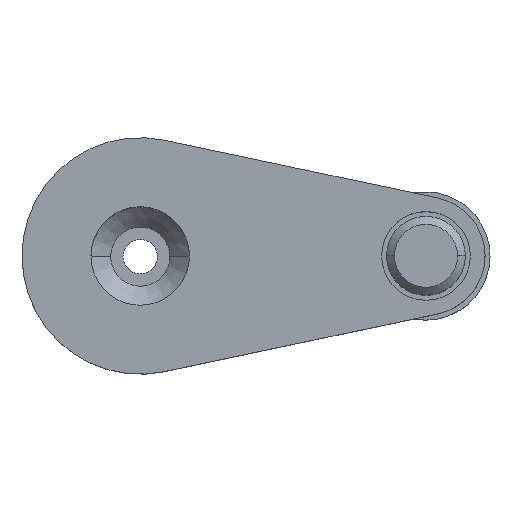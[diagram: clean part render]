
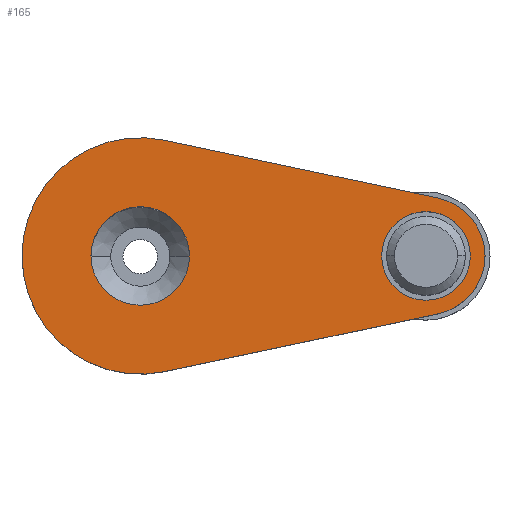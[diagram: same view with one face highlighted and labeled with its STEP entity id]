
A CAD part, top view. The second image highlights one B-rep face of the part: STEP entity #165.
In plain terms, the highlighted planar face has unit normal (0, 0, 1).
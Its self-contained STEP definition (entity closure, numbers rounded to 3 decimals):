
#116=FACE_BOUND('',#280,.T.);
#117=FACE_BOUND('',#281,.T.);
#118=FACE_BOUND('',#282,.T.);
#138=PLANE('',#979);
#165=ADVANCED_FACE('',(#116,#117,#118),#138,.T.);
#280=EDGE_LOOP('',(#499,#500,#501,#502,#503,#504));
#281=EDGE_LOOP('',(#505,#506));
#282=EDGE_LOOP('',(#507,#508));
#335=LINE('',#1363,#395);
#339=LINE('',#1379,#399);
#395=VECTOR('',#1079,1.);
#399=VECTOR('',#1095,1.);
#499=ORIENTED_EDGE('',*,*,#786,.F.);
#500=ORIENTED_EDGE('',*,*,#779,.F.);
#501=ORIENTED_EDGE('',*,*,#773,.F.);
#502=ORIENTED_EDGE('',*,*,#778,.F.);
#503=ORIENTED_EDGE('',*,*,#787,.F.);
#504=ORIENTED_EDGE('',*,*,#782,.F.);
#505=ORIENTED_EDGE('',*,*,#799,.F.);
#506=ORIENTED_EDGE('',*,*,#795,.F.);
#507=ORIENTED_EDGE('',*,*,#793,.F.);
#508=ORIENTED_EDGE('',*,*,#789,.F.);
#693=VERTEX_POINT('',#1351);
#694=VERTEX_POINT('',#1352);
#698=VERTEX_POINT('',#1360);
#699=VERTEX_POINT('',#1364);
#701=VERTEX_POINT('',#1370);
#702=VERTEX_POINT('',#1371);
#705=VERTEX_POINT('',#1383);
#706=VERTEX_POINT('',#1384);
#709=VERTEX_POINT('',#1395);
#710=VERTEX_POINT('',#1396);
#773=EDGE_CURVE('',#693,#694,#893,.T.);
#778=EDGE_CURVE('',#698,#693,#896,.T.);
#779=EDGE_CURVE('',#694,#699,#335,.T.);
#782=EDGE_CURVE('',#701,#702,#897,.T.);
#786=EDGE_CURVE('',#699,#701,#900,.T.);
#787=EDGE_CURVE('',#702,#698,#339,.T.);
#789=EDGE_CURVE('',#705,#706,#901,.T.);
#793=EDGE_CURVE('',#706,#705,#903,.T.);
#795=EDGE_CURVE('',#709,#710,#905,.T.);
#799=EDGE_CURVE('',#710,#709,#907,.T.);
#893=CIRCLE('',#954,6.);
#896=CIRCLE('',#957,6.);
#897=CIRCLE('',#960,12.);
#900=CIRCLE('',#963,12.);
#901=CIRCLE('',#966,4.5);
#903=CIRCLE('',#969,4.5);
#905=CIRCLE('',#972,5.);
#907=CIRCLE('',#975,5.);
#954=AXIS2_PLACEMENT_3D('',#1350,#1067,#1068);
#957=AXIS2_PLACEMENT_3D('',#1361,#1075,#1076);
#960=AXIS2_PLACEMENT_3D('',#1369,#1084,#1085);
#963=AXIS2_PLACEMENT_3D('',#1377,#1091,#1092);
#966=AXIS2_PLACEMENT_3D('',#1382,#1099,#1100);
#969=AXIS2_PLACEMENT_3D('',#1391,#1107,#1108);
#972=AXIS2_PLACEMENT_3D('',#1394,#1113,#1114);
#975=AXIS2_PLACEMENT_3D('',#1403,#1121,#1122);
#979=AXIS2_PLACEMENT_3D('',#1407,#1129,#1130);
#1067=DIRECTION('',(0.,0.,-1.));
#1068=DIRECTION('',(-1.,0.,0.));
#1075=DIRECTION('',(0.,0.,-1.));
#1076=DIRECTION('',(-1.,0.,0.));
#1079=DIRECTION('',(-0.978,-0.207,0.));
#1084=DIRECTION('',(0.,0.,-1.));
#1085=DIRECTION('',(1.,0.,0.));
#1091=DIRECTION('',(0.,0.,-1.));
#1092=DIRECTION('',(1.,0.,0.));
#1095=DIRECTION('',(0.978,-0.207,0.));
#1099=DIRECTION('',(0.,0.,1.));
#1100=DIRECTION('',(1.,0.,0.));
#1107=DIRECTION('',(0.,0.,1.));
#1108=DIRECTION('',(-1.,0.,0.));
#1113=DIRECTION('',(0.,0.,1.));
#1114=DIRECTION('',(1.,0.,0.));
#1121=DIRECTION('',(0.,0.,1.));
#1122=DIRECTION('',(-1.,0.,0.));
#1129=DIRECTION('',(0.,0.,1.));
#1130=DIRECTION('',(-1.,0.,0.));
#1350=CARTESIAN_POINT('',(29.,0.,0.));
#1351=CARTESIAN_POINT('',(35.,0.,0.));
#1352=CARTESIAN_POINT('',(30.241,-5.87,0.));
#1360=CARTESIAN_POINT('',(30.241,5.87,0.));
#1361=CARTESIAN_POINT('',(29.,0.,0.));
#1363=CARTESIAN_POINT('',(2.483,-11.74,0.));
#1364=CARTESIAN_POINT('',(2.483,-11.74,0.));
#1369=CARTESIAN_POINT('',(0.,0.,0.));
#1370=CARTESIAN_POINT('',(-12.,0.,0.));
#1371=CARTESIAN_POINT('',(2.483,11.74,0.));
#1377=CARTESIAN_POINT('',(0.,0.,0.));
#1379=CARTESIAN_POINT('',(2.483,11.74,0.));
#1382=CARTESIAN_POINT('',(29.,0.,0.));
#1383=CARTESIAN_POINT('',(29.,4.5,0.));
#1384=CARTESIAN_POINT('',(29.,-4.5,0.));
#1391=CARTESIAN_POINT('',(29.,0.,0.));
#1394=CARTESIAN_POINT('',(0.,0.,0.));
#1395=CARTESIAN_POINT('',(0.,5.,0.));
#1396=CARTESIAN_POINT('',(0.,-5.,0.));
#1403=CARTESIAN_POINT('',(0.,0.,0.));
#1407=CARTESIAN_POINT('',(-12.,0.,0.));
